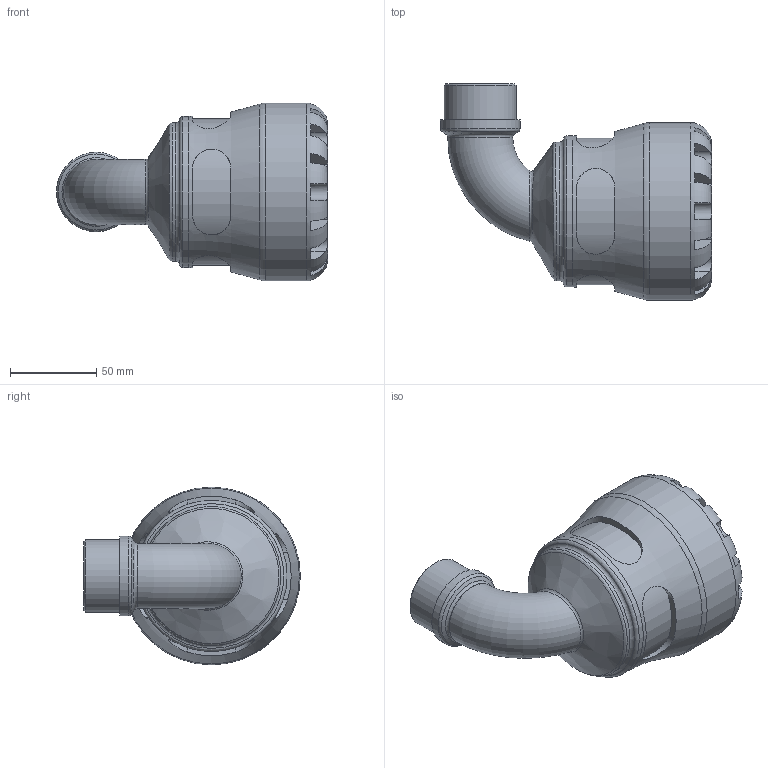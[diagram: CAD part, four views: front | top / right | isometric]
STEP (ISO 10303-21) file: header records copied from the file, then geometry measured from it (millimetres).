
FILE_DESCRIPTION(/* description */ ('PLASSON 90° ELBOW WITH MALE INTEGRAL BRASS 63X1.1/4" SERIES 1'),/* implementation_level */ '2;1');
FILE_NAME(/* name */ 'C:\Dropbox\KIMPROJECTS-Inventor\99-16-3568-Processing\1077\107700063013_197700063013.ipt.stp',/* time_stamp */ '2017-01-22T11:54:46+02:00',/* author */ ('KIM'),/* organization */ (''),/* preprocessor_version */ 'ST-DEVELOPER v15.6',/* originating_system */ 'Autodesk Inventor 2015',/* authorisation */ '');
FILE_SCHEMA (('AUTOMOTIVE_DESIGN { 1 0 10303 214 3 1 1 }'));
Length unit declared in the file: millimetre
Products named in the file (1): 107700063013_197700063013
Bounding box: 157.05 x 125.5 x 103 mm (x, y, z)
Volume: 430139.9 mm3; surface area: 81324.5 mm2
Topology: 1 solids, 1 shells, 112 faces, 275 edges, 170 vertices
Faces by surface type: plane 60, cylinder 37, torus 9, cone 3, bspline 3
Full cylindrical faces by diameter (mm): 29.337 x2, 37.719 x1, 41.91 x1, 46.101 x1, 63 x1, 80.34 x1, 87.55 x1, 103 x1
Entity records: 4426 total; most frequent: CARTESIAN_POINT 1850, DIRECTION 495, ORIENTED_EDGE 492, EDGE_CURVE 246, AXIS2_PLACEMENT_3D 207, VERTEX_POINT 163, EDGE_LOOP 141, STYLED_ITEM 113
